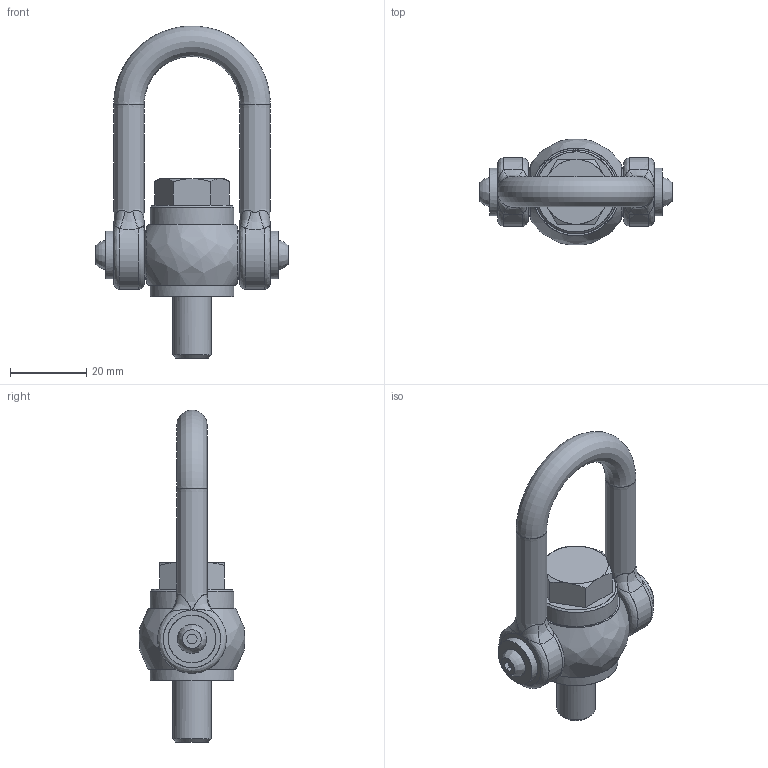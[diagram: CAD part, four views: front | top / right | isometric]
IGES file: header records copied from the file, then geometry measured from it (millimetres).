
Global section: file name: E:\UnigraphicsGraphicData\MISUMI_MOLD-PARTS\NX\3d_sleb10_00876_r00.igs; native system: NX V5.0; preprocessor: UGS NX IGES V5.0; author: MISUMI; date: 20101115.183346; units: millimetre
Bounding box: 50.4 x 27.55 x 87 mm (x, y, z)
Surface area: 10296.3 mm2 (no closed solid volume)
Topology: 0 solids, 0 shells, 81 faces, 659 edges, 635 vertices
Faces by surface type: bspline 81
